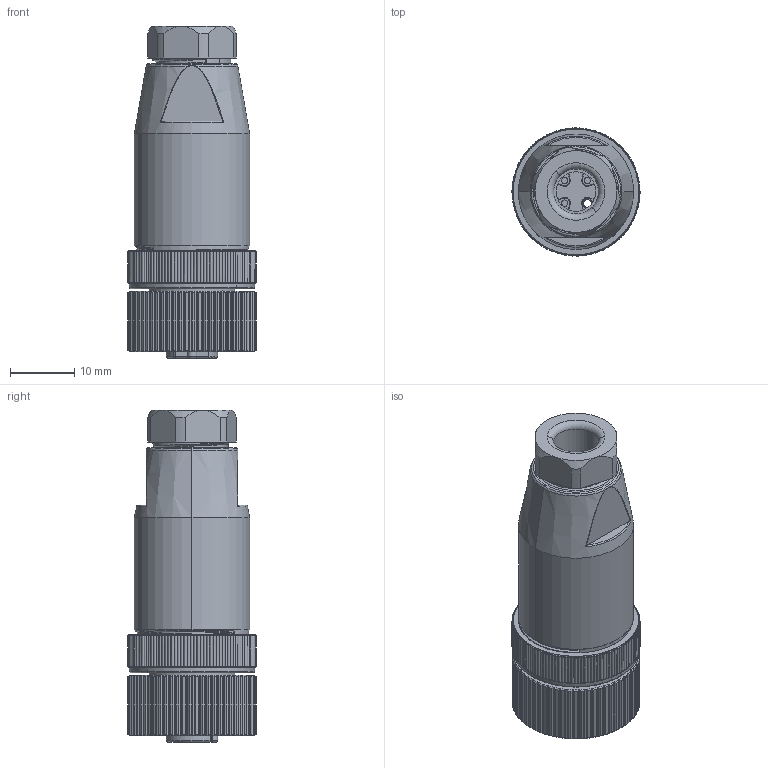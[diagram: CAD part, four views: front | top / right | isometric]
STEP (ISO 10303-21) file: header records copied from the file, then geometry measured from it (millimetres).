
FILE_DESCRIPTION((''),'2;1');
FILE_NAME('XC-M12-WK-PG7','2025-06-20T17:00:31',('lyj'),(''),'CREO PARAMETRIC BY PTC INC, 2019010','CREO PARAMETRIC BY PTC INC, 2019010','');
FILE_SCHEMA(('CONFIG_CONTROL_DESIGN'));
Products named in the file (1): XC-M12-WK-PG7
Bounding box: 20 x 20 x 51.86 mm (x, y, z)
Volume: 8449.2 mm3; surface area: 10286.8 mm2
Topology: 1 solids, 7 shells, 1406 faces, 3748 edges, 2397 vertices
Faces by surface type: cylinder 563, cone 401, plane 352, bspline 47, extrusion 29, torus 14
Entity records: 69230 total; most frequent: CARTESIAN_POINT 35767, ORIENTED_EDGE 7496, DIRECTION 6393, EDGE_CURVE 3748, AXIS2_PLACEMENT_3D 2559, VERTEX_POINT 2397, EDGE_LOOP 1477, FACE_OUTER_BOUND 1406
